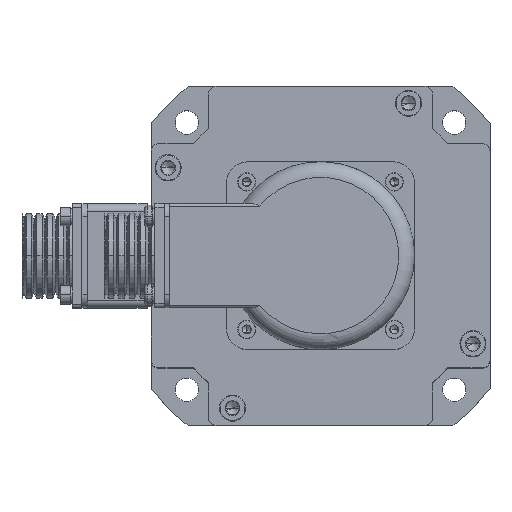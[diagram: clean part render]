
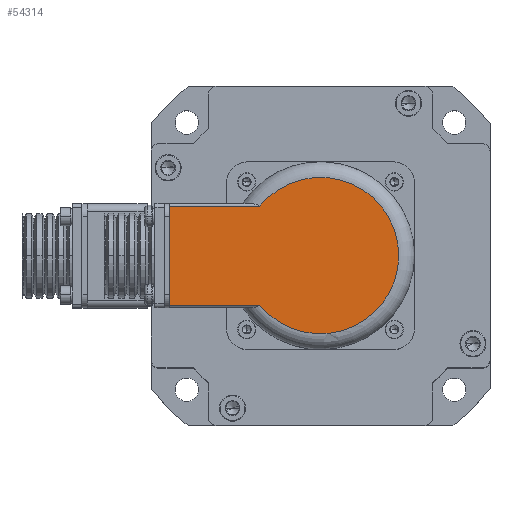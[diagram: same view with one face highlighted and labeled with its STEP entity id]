
A CAD part, top view. The second image highlights one B-rep face of the part: STEP entity #54314.
In plain terms, the highlighted planar face has unit normal (0, 0, 1) as drawn and (1, 0, 0) by its records, which use the part's own axes.
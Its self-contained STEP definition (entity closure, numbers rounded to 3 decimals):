
#52778=DIRECTION('',(0.,1.,0.));
#52779=VECTOR('',#52778,34.784);
#52780=CARTESIAN_POINT('',(43.,23.216,-19.));
#52781=LINE('',#52780,#52779);
#52786=CARTESIAN_POINT('',(43.,0.,0.));
#52787=DIRECTION('',(-1.,0.,0.));
#52788=DIRECTION('',(0.,0.774,-0.633));
#52789=AXIS2_PLACEMENT_3D('',#52786,#52787,#52788);
#52791=CARTESIAN_POINT('',(43.,0.,0.));
#52792=DIRECTION('',(-1.,0.,0.));
#52793=DIRECTION('',(0.,-1.,0.001));
#52794=AXIS2_PLACEMENT_3D('',#52791,#52792,#52793);
#52796=DIRECTION('',(0.,-1.,0.));
#52797=VECTOR('',#52796,34.784);
#52798=CARTESIAN_POINT('',(43.,58.,19.));
#52799=LINE('',#52798,#52797);
#52836=DIRECTION('',(0.,0.,1.));
#52837=VECTOR('',#52836,38.);
#52838=CARTESIAN_POINT('',(43.,58.,-19.));
#52839=LINE('',#52838,#52837);
#53834=CARTESIAN_POINT('',(43.,23.216,-19.));
#53835=CARTESIAN_POINT('',(43.,58.,-19.));
#53836=VERTEX_POINT('',#53834);
#53837=VERTEX_POINT('',#53835);
#53838=CARTESIAN_POINT('',(43.,58.,19.));
#53839=CARTESIAN_POINT('',(43.,23.216,19.));
#53840=VERTEX_POINT('',#53838);
#53841=VERTEX_POINT('',#53839);
#53842=CARTESIAN_POINT('',(43.,-30.,0.033));
#53843=VERTEX_POINT('',#53842);
#54298=CARTESIAN_POINT('',(43.,0.,0.));
#54299=DIRECTION('',(1.,0.,0.));
#54300=DIRECTION('',(0.,-1.,0.));
#54301=AXIS2_PLACEMENT_3D('',#54298,#54299,#54300);
#54302=PLANE('',#54301);
#54304=ORIENTED_EDGE('',*,*,#54303,.F.);
#54306=ORIENTED_EDGE('',*,*,#54305,.F.);
#54307=ORIENTED_EDGE('',*,*,#54281,.F.);
#54309=ORIENTED_EDGE('',*,*,#54308,.T.);
#54311=ORIENTED_EDGE('',*,*,#54310,.T.);
#54312=EDGE_LOOP('',(#54304,#54306,#54307,#54309,#54311));
#54313=FACE_OUTER_BOUND('',#54312,.F.);
#54314=ADVANCED_FACE('',(#54313),#54302,.T.);
#52790=CIRCLE('',#52789,30.);
#52795=CIRCLE('',#52794,30.);
#54281=EDGE_CURVE('',#53836,#53837,#52781,.T.);
#54303=EDGE_CURVE('',#53840,#53841,#52799,.T.);
#54305=EDGE_CURVE('',#53837,#53840,#52839,.T.);
#54308=EDGE_CURVE('',#53836,#53843,#52790,.T.);
#54310=EDGE_CURVE('',#53843,#53841,#52795,.T.);
